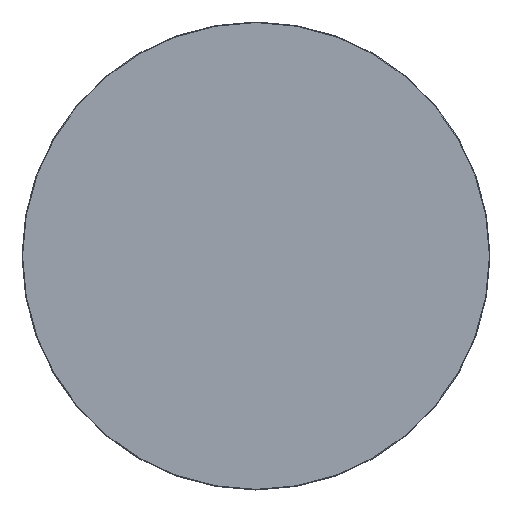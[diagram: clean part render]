
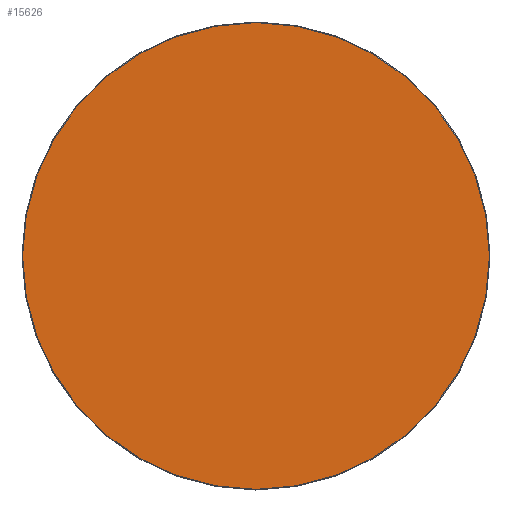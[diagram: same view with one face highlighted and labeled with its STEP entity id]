
A CAD part, top view. The second image highlights one B-rep face of the part: STEP entity #15626.
In plain terms, the highlighted planar face has unit normal (0, 0, 1).
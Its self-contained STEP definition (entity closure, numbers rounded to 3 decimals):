
#15551=CARTESIAN_POINT('',(0.,0.,20.));
#15552=DIRECTION('',(1.,0.,0.));
#15553=DIRECTION('',(0.,0.,1.));
#15554=AXIS2_PLACEMENT_3D('',#15551,#15553,#15552);
#15555=PLANE('',#15554);
#15556=CARTESIAN_POINT('',(-0.5,-548.5,20.));
#15557=VERTEX_POINT('',#15556);
#15558=CARTESIAN_POINT('',(0.5,-548.5,20.));
#15559=VERTEX_POINT('',#15558);
#15560=CARTESIAN_POINT('',(-0.5,-548.5,20.));
#15561=DIRECTION('',(1.,0.,0.));
#15562=VECTOR('',#15561,1.);
#15563=LINE('',#15560,#15562);
#15564=EDGE_CURVE('',#15557,#15559,#15563,.T.);
#15565=ORIENTED_EDGE('E105',*,*,#15564,.T.);
#15566=CARTESIAN_POINT('',(548.5,-0.5,20.));
#15567=VERTEX_POINT('',#15566);
#15568=CARTESIAN_POINT('',(0.5,-0.5,20.));
#15569=DIRECTION('',(0.,-1.,0.));
#15570=DIRECTION('',(0.,-0.,1.));
#15571=AXIS2_PLACEMENT_3D('',#15568,#15570,#15569);
#15572=CIRCLE('',#15571,548.);
#15573=EDGE_CURVE('',#15559,#15567,#15572,.T.);
#15574=ORIENTED_EDGE('E107',*,*,#15573,.T.);
#15575=CARTESIAN_POINT('',(548.5,0.5,20.));
#15576=VERTEX_POINT('',#15575);
#15577=CARTESIAN_POINT('',(548.5,-0.5,20.));
#15578=DIRECTION('',(0.,1.,0.));
#15579=VECTOR('',#15578,1.);
#15580=LINE('',#15577,#15579);
#15581=EDGE_CURVE('',#15567,#15576,#15580,.T.);
#15582=ORIENTED_EDGE('E109',*,*,#15581,.T.);
#15583=CARTESIAN_POINT('',(0.5,548.5,20.));
#15584=VERTEX_POINT('',#15583);
#15585=CARTESIAN_POINT('',(0.5,0.5,20.));
#15586=DIRECTION('',(1.,0.,0.));
#15587=DIRECTION('',(0.,0.,1.));
#15588=AXIS2_PLACEMENT_3D('',#15585,#15587,#15586);
#15589=CIRCLE('',#15588,548.);
#15590=EDGE_CURVE('',#15576,#15584,#15589,.T.);
#15591=ORIENTED_EDGE('E111',*,*,#15590,.T.);
#15592=CARTESIAN_POINT('',(-0.5,548.5,20.));
#15593=VERTEX_POINT('',#15592);
#15594=CARTESIAN_POINT('',(0.5,548.5,20.));
#15595=DIRECTION('',(-1.,0.,0.));
#15596=VECTOR('',#15595,1.);
#15597=LINE('',#15594,#15596);
#15598=EDGE_CURVE('',#15584,#15593,#15597,.T.);
#15599=ORIENTED_EDGE('E113',*,*,#15598,.T.);
#15600=CARTESIAN_POINT('',(-548.5,0.5,20.));
#15601=VERTEX_POINT('',#15600);
#15602=CARTESIAN_POINT('',(-0.5,0.5,20.));
#15603=DIRECTION('',(0.,1.,0.));
#15604=DIRECTION('',(0.,0.,1.));
#15605=AXIS2_PLACEMENT_3D('',#15602,#15604,#15603);
#15606=CIRCLE('',#15605,548.);
#15607=EDGE_CURVE('',#15593,#15601,#15606,.T.);
#15608=ORIENTED_EDGE('E115',*,*,#15607,.T.);
#15609=CARTESIAN_POINT('',(-548.5,-0.5,20.));
#15610=VERTEX_POINT('',#15609);
#15611=CARTESIAN_POINT('',(-548.5,0.5,20.));
#15612=DIRECTION('',(0.,-1.,0.));
#15613=VECTOR('',#15612,1.);
#15614=LINE('',#15611,#15613);
#15615=EDGE_CURVE('',#15601,#15610,#15614,.T.);
#15616=ORIENTED_EDGE('E117',*,*,#15615,.T.);
#15617=CARTESIAN_POINT('',(-0.5,-0.5,20.));
#15618=DIRECTION('',(-1.,0.,0.));
#15619=DIRECTION('',(0.,0.,1.));
#15620=AXIS2_PLACEMENT_3D('',#15617,#15619,#15618);
#15621=CIRCLE('',#15620,548.);
#15622=EDGE_CURVE('',#15610,#15557,#15621,.T.);
#15623=ORIENTED_EDGE('E119',*,*,#15622,.T.);
#15624=EDGE_LOOP('',(#15565,#15574,#15582,#15591,#15599,#15608,#15616,#15623));
#15625=FACE_OUTER_BOUND('',#15624,.T.);
#15626=ADVANCED_FACE('F2',(#15625),#15555,.T.);
